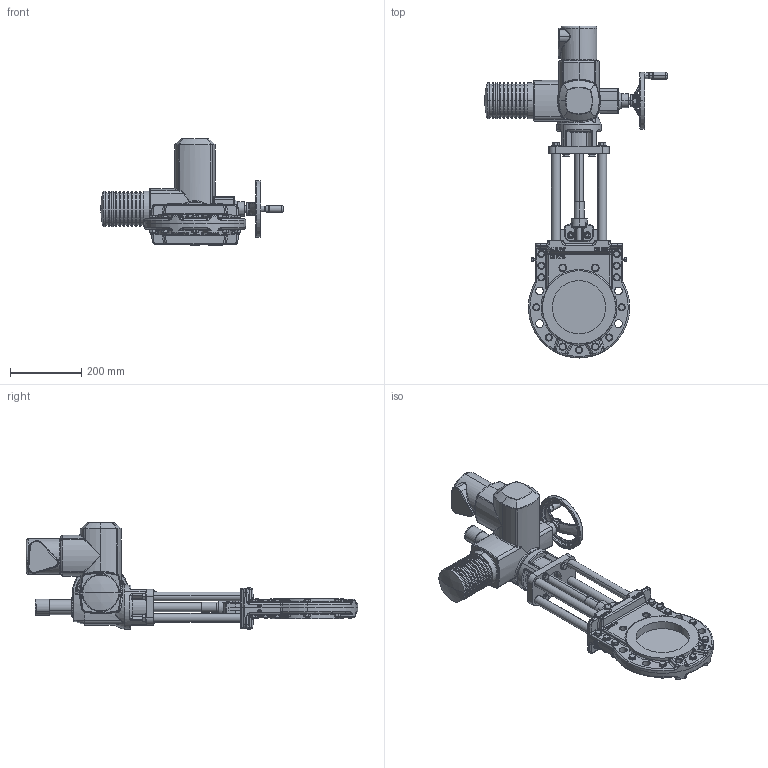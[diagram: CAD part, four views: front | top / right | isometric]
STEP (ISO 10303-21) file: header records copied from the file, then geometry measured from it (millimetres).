
FILE_DESCRIPTION (( 'STEP AP214' ), '1' );
FILE_NAME ('MGE DN 0150 PN10_16 (SA 07.6).STEP', '2015-09-23T08:39:28', ( 'admin' ), ( 'Hewlett-Packard Company' ), 'SwSTEP 2.0', 'SolidWorks 2013', '' );
FILE_SCHEMA (( 'AUTOMOTIVE_DESIGN' ));
Length unit declared in the file: millimetre
Products named in the file (1): MGE DN 0150 PN10_16 (SA 07.6)
Bounding box: 513 x 933 x 300.5 mm (x, y, z)
Volume: 11919543.7 mm3; surface area: 991465.7 mm2
Topology: 73 solids, 84 shells, 2933 faces, 6731 edges, 4004 vertices
Faces by surface type: plane 1006, cylinder 767, cone 534, bspline 369, torus 203, sphere 54
Entity records: 134165 total; most frequent: CARTESIAN_POINT 37304, ORIENTED_EDGE 13302, DIRECTION 13220, EDGE_CURVE 6651, AXIS2_PLACEMENT_3D 5350, VERTEX_POINT 4004, EDGE_LOOP 3211, UNCERTAINTY_MEASURE_WITH_UNIT 3006
